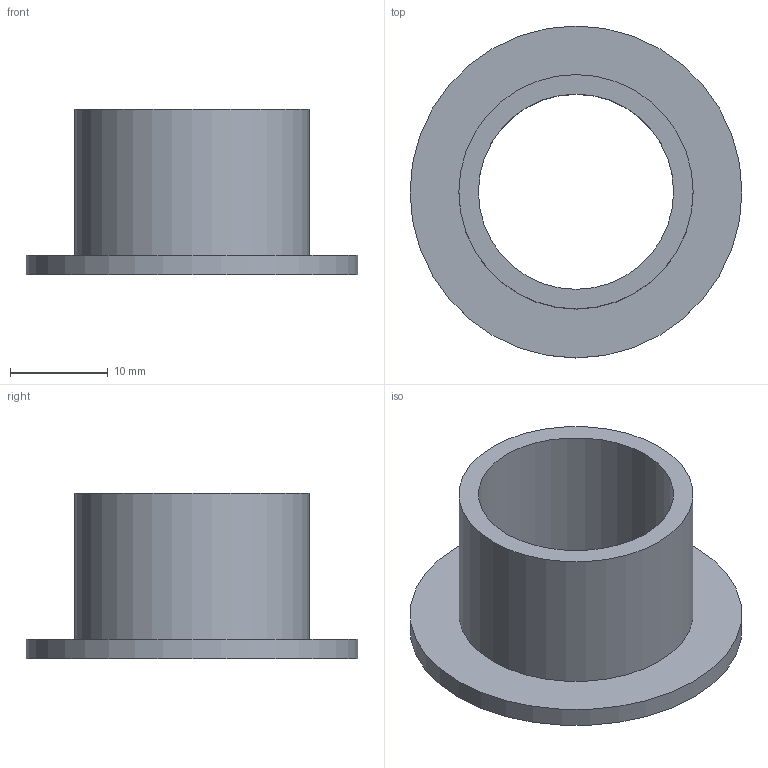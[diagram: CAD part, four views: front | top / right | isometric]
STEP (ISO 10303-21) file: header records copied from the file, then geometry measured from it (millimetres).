
FILE_DESCRIPTION(('Open CASCADE Model'),'2;1');
FILE_NAME('Open CASCADE Shape Model','2026-10-07T15:46:24',('Author'),( 'Open CASCADE'),'Open CASCADE STEP processor 7.9','Open CASCADE 7.9' ,'Unknown');
FILE_SCHEMA(('AUTOMOTIVE_DESIGN { 1 0 10303 214 1 1 1 1 }'));
Length unit declared in the file: millimetre
Products named in the file (1): Open CASCADE STEP translator 7.9 4
Bounding box: 34 x 34 x 17 mm (x, y, z)
Volume: 3261 mm3; surface area: 3600.3 mm2
Topology: 1 solids, 1 shells, 6 faces, 9 edges, 6 vertices
Faces by surface type: cylinder 3, plane 3
Full cylindrical faces by diameter (mm): 20 x1, 24 x1, 34 x1
Entity records: 279 total; most frequent: CARTESIAN_POINT 58, DIRECTION 44, ORIENTED_EDGE 18, PCURVE 18, DEFINITIONAL_REPRESENTATION 18, LINE 15, VECTOR 15, AXIS2_PLACEMENT_3D 13
